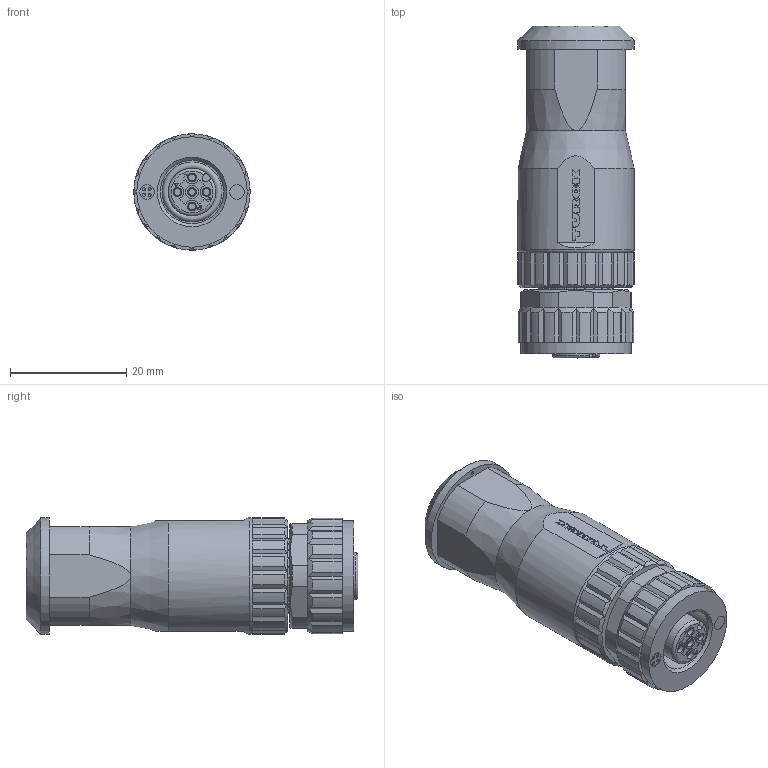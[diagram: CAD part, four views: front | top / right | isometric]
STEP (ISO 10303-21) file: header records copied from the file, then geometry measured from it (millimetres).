
FILE_DESCRIPTION(/* description */ (''),/* implementation_level */ '2;1');
FILE_NAME(/* name */ 'K:\Step\43\43K1A3919_5pol_TURCK_.stp',/* time_stamp */ '2018-01-10T15:26:44+01:00',/* author */ ('RuthChristen'),/* organization */ (''),/* preprocessor_version */ 'ST-DEVELOPER v16.13',/* originating_system */ 'Autodesk Inventor 2018',/* authorisation */ '');
FILE_SCHEMA (('AUTOMOTIVE_DESIGN { 1 0 10303 214 3 1 1 }'));
Length unit declared in the file: millimetre
Products named in the file (1): Bauteil9
Bounding box: 20 x 57.1 x 20 mm (x, y, z)
Volume: 15551.7 mm3; surface area: 5017.5 mm2
Topology: 1 solids, 1 shells, 404 faces, 1086 edges, 717 vertices
Faces by surface type: plane 249, cylinder 103, bspline 34, cone 14, torus 4
Full cylindrical faces by diameter (mm): 0.5 x1, 1.1 x5, 1.5 x5, 2.2 x1, 2.5 x2, 9.754 x1, 10.92 x1, 19 x1, 20 x2
Entity records: 13045 total; most frequent: CARTESIAN_POINT 2936, ORIENTED_EDGE 2086, DIRECTION 1861, EDGE_CURVE 1043, VERTEX_POINT 706, LINE 643, VECTOR 643, AXIS2_PLACEMENT_3D 609
